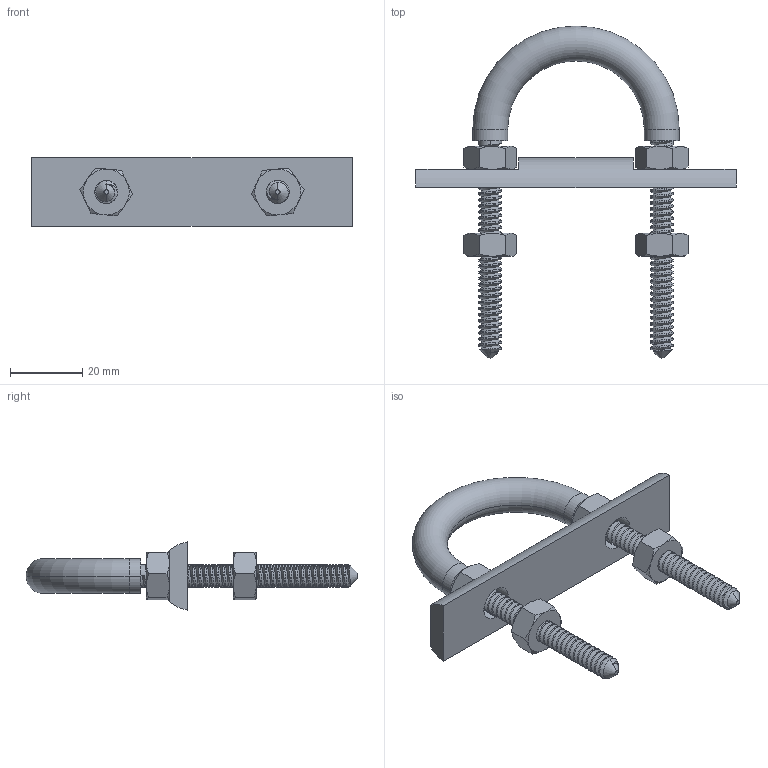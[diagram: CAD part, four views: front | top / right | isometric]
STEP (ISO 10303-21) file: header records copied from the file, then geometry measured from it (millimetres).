
FILE_DESCRIPTION (( 'STEP AP214' ), '1' );
FILE_NAME ('NUB1459.STEP', '2022-04-04T15:43:46', ( '' ), ( '' ), 'SwSTEP 2.0', 'SolidWorks 2021', '' );
FILE_SCHEMA (( 'AUTOMOTIVE_DESIGN' ));
Length unit declared in the file: inch
Products named in the file (4): FAS0044; ROD0633_IR03-0.75 [ROD0633]; UBT0986_UBT3-0.75-0.25-20_XL [NUB1459]; NUB1459
Assembly tree (6 placements, depth 2):
  NUB1459
    FAS0044  x4
    UBT0986_UBT3-0.75-0.25-20_XL [NUB1459]
    ROD0633_IR03-0.75 [ROD0633]
Bounding box: 88.9 x 92.17 x 18.88 mm (x, y, z)
Volume: 19495.1 mm3; surface area: 16098.9 mm2
Topology: 7 solids, 7 shells, 293 faces, 769 edges, 490 vertices
Faces by surface type: cylinder 168, cone 70, plane 45, torus 6, bspline 4
Entity records: 16454 total; most frequent: CARTESIAN_POINT 11579, ORIENTED_EDGE 1154, DIRECTION 767, EDGE_CURVE 577, VERTEX_POINT 376, AXIS2_PLACEMENT_3D 289, EDGE_LOOP 217, ADVANCED_FACE 209
